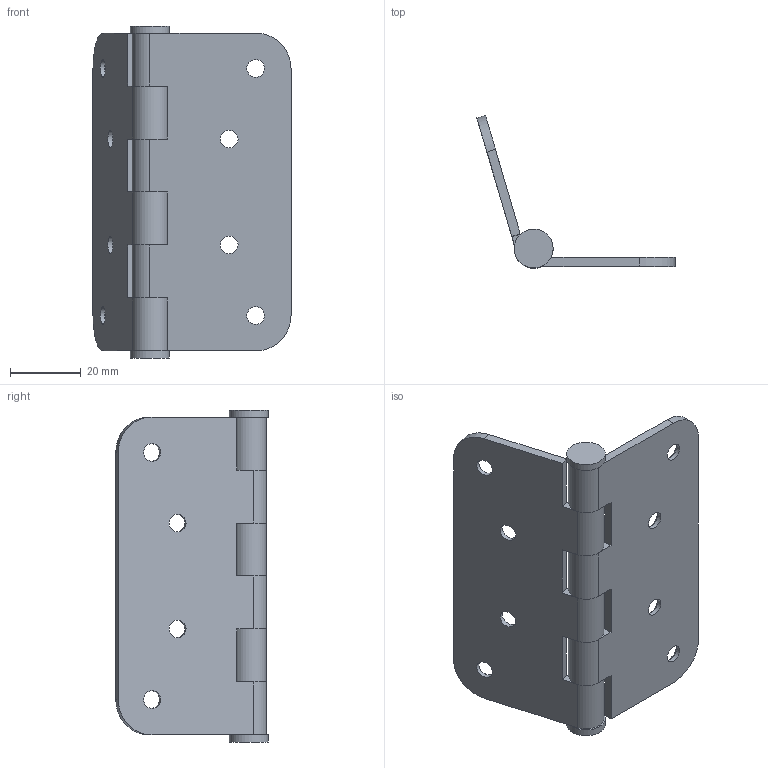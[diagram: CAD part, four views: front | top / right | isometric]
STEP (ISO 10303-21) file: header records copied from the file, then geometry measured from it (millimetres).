
FILE_DESCRIPTION(/* description */ (''),/* implementation_level */ '2;1');
FILE_NAME(/* name */ 'C:\Users\gzb\Desktop\Youtube\19- HINGE\Assembly1.stp',/* time_stamp */ '2023-05-01T02:33:01+05:00',/* author */ ('gzb'),/* organization */ (''),/* preprocessor_version */ 'ST-DEVELOPER v18',/* originating_system */ 'Autodesk Inventor 2020',/* authorisation */ '');
FILE_SCHEMA (('AUTOMOTIVE_DESIGN { 1 0 10303 214 3 1 1 }'));
Length unit declared in the file: millimetre
Products named in the file (3): Assembly1; PART-1; PIN
Assembly tree (3 placements, depth 2):
  Assembly1
    PART-1  x2
    PIN
Bounding box: 56.06 x 43.18 x 94 mm (x, y, z)
Volume: 22350.1 mm3; surface area: 20282.2 mm2
Topology: 3 solids, 3 shells, 83 faces, 215 edges, 140 vertices
Faces by surface type: plane 48, cylinder 27, cone 8
Full cylindrical faces by diameter (mm): 5 x9, 11 x2
Entity records: 1510 total; most frequent: DIRECTION 265, CARTESIAN_POINT 242, ORIENTED_EDGE 230, EDGE_CURVE 115, AXIS2_PLACEMENT_3D 99, VERTEX_POINT 76, LINE 67, VECTOR 67
